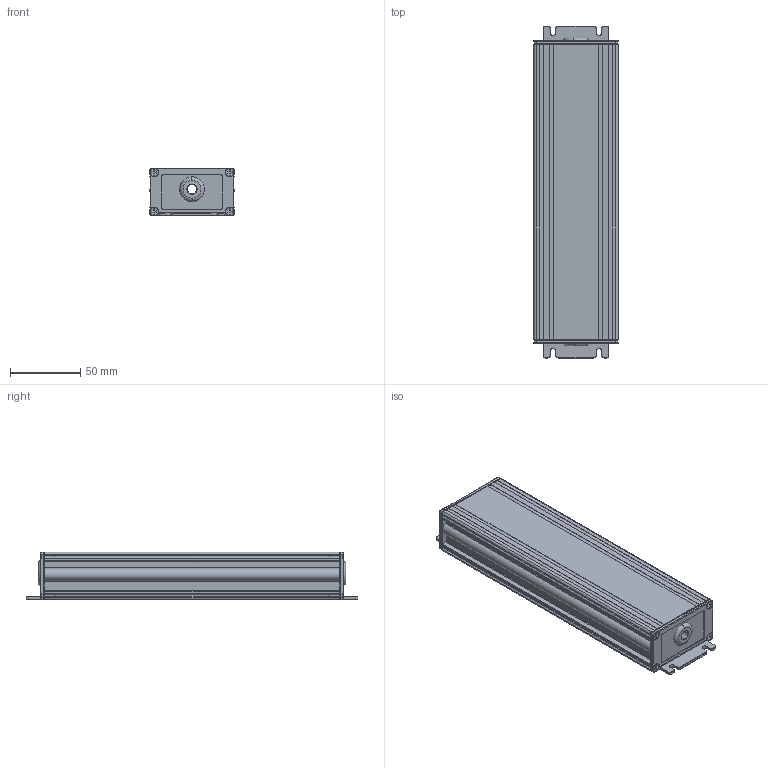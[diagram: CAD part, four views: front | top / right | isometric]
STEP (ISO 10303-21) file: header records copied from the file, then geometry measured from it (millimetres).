
FILE_DESCRIPTION((''),'2;1');
FILE_NAME('15007689Z','2013-03-26T',('juergen.hrach'),(''),'PRO/ENGINEER BY PARAMETRIC TECHNOLOGY CORPORATION, 2012420','PRO/ENGINEER BY PARAMETRIC TECHNOLOGY CORPORATION, 2012420','');
FILE_SCHEMA(('AUTOMOTIVE_DESIGN { 1 2 10303 214 0 1 1 1 }'));
Length unit declared in the file: millimetre
Products named in the file (1): 15007689Z
Bounding box: 60 x 236.6 x 34 mm (x, y, z)
Volume: 87726.4 mm3; surface area: 97491.2 mm2
Topology: 1 solids, 1 shells, 528 faces, 1416 edges, 904 vertices
Faces by surface type: plane 294, cylinder 166, cone 64, torus 4
Entity records: 24851 total; most frequent: CARTESIAN_POINT 3351, ORIENTED_EDGE 2832, DIRECTION 2792, PRESENTATION_STYLE_ASSIGNMENT 1945, STYLED_ITEM 1417, CURVE_STYLE 1416, EDGE_CURVE 1416, AXIS2_PLACEMENT_3D 952
